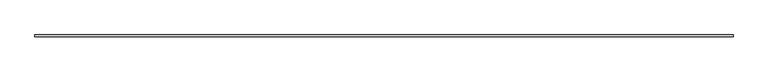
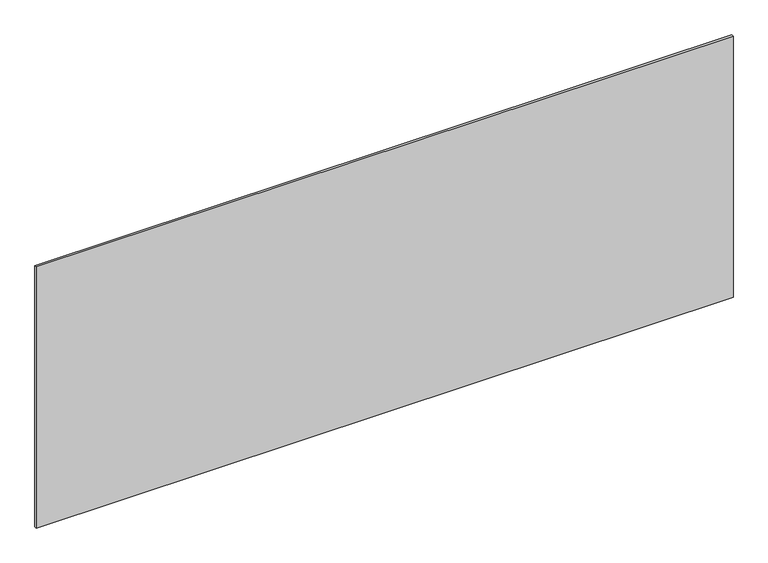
"""IFC4 building model written with IfcOpenShell, lengths in millimetres: plate geometry, システム パネル : 標準."""

from ifc_helpers import new_model, si_unit, origin, origin_with_axes, place, context, project, spatial, polyline, outline, extrude, source, transform, mapped, element, save


def plate_d56826eb(model_context):
    return source(origin(), model_context, "Body", "SweptSolid", [
        extrude(outline(polyline([(1697.5, -5.0), (-1697.5, -5.0), (-1697.5, 5.0), (1697.5, 5.0), (1697.5, -5.0)])), origin_with_axes(), (0.0, 0.0, 1.0), 1345.016358),
    ])


if __name__ == "__main__":
    model = new_model("IFC4")
    model_context = context("Model", 3, world=origin())
    ifc_project = project(units=[si_unit("LENGTHUNIT", "METRE", prefix="MILLI")], contexts=[model_context])
    site = spatial("IfcSite", under=ifc_project)
    building = spatial("IfcBuilding", under=site)
    placement = place(None, origin())
    plate_shape = plate_d56826eb(model_context)
    element("IfcPlate", 1, ObjectType="システム パネル : 標準", at=placement, inside=building, context=model_context, shape_type="MappedRepresentation", body=[
        mapped(plate_shape, transform((0.0, 0.0, 0.0), x_axis=(1.0, 0.0, 0.0), y_axis=(0.0, 1.0, 0.0), z_axis=(0.0, 0.0, 1.0))),
    ])
    save(model, "model.ifc")
